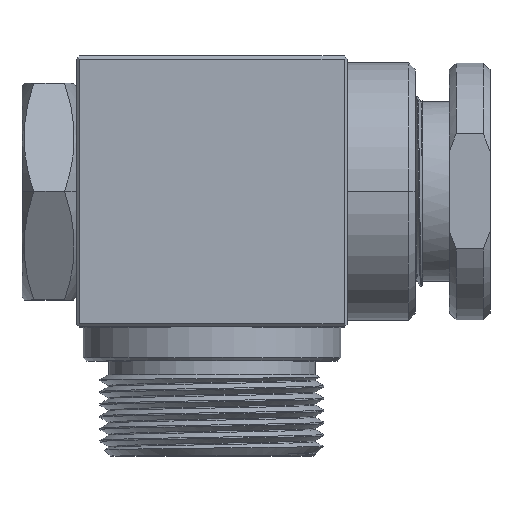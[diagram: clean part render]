
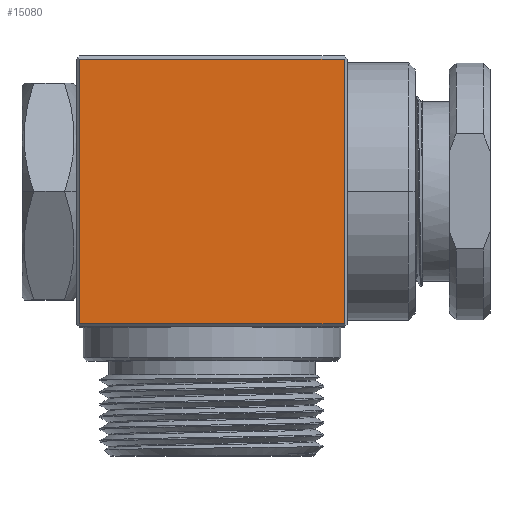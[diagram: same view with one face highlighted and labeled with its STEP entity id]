
A CAD part, top view. The second image highlights one B-rep face of the part: STEP entity #15080.
In plain terms, the highlighted planar face has unit normal (0, 0, 1).
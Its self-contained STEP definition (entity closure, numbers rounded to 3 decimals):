
#967=DIRECTION('',(0.,1.,0.));
#968=VECTOR('',#967,39.);
#969=CARTESIAN_POINT('',(19.5,-19.5,20.));
#970=LINE('',#969,#968);
#995=DIRECTION('',(1.,0.,0.));
#996=VECTOR('',#995,39.);
#997=CARTESIAN_POINT('',(-19.5,-19.5,20.));
#998=LINE('',#997,#996);
#1160=DIRECTION('',(-1.,0.,0.));
#1161=VECTOR('',#1160,39.);
#1162=CARTESIAN_POINT('',(19.5,19.5,20.));
#1163=LINE('',#1162,#1161);
#1188=DIRECTION('',(0.,-1.,0.));
#1189=VECTOR('',#1188,39.);
#1190=CARTESIAN_POINT('',(-19.5,19.5,20.));
#1191=LINE('',#1190,#1189);
#13782=CARTESIAN_POINT('',(-19.5,19.5,20.));
#13784=VERTEX_POINT('',#13782);
#13792=CARTESIAN_POINT('',(19.5,-19.5,20.));
#13793=CARTESIAN_POINT('',(19.5,19.5,20.));
#13794=VERTEX_POINT('',#13792);
#13795=VERTEX_POINT('',#13793);
#13800=CARTESIAN_POINT('',(-19.5,-19.5,20.));
#13801=VERTEX_POINT('',#13800);
#15066=CARTESIAN_POINT('',(0.,0.,20.));
#15067=DIRECTION('',(0.,0.,1.));
#15068=DIRECTION('',(1.,0.,0.));
#15069=AXIS2_PLACEMENT_3D('',#15066,#15067,#15068);
#15070=PLANE('',#15069);
#15072=ORIENTED_EDGE('',*,*,#15071,.F.);
#15074=ORIENTED_EDGE('',*,*,#15073,.F.);
#15076=ORIENTED_EDGE('',*,*,#15075,.F.);
#15077=ORIENTED_EDGE('',*,*,#15046,.F.);
#15078=EDGE_LOOP('',(#15072,#15074,#15076,#15077));
#15079=FACE_OUTER_BOUND('',#15078,.F.);
#15080=ADVANCED_FACE('',(#15079),#15070,.T.);
#15046=EDGE_CURVE('',#13794,#13795,#970,.T.);
#15071=EDGE_CURVE('',#13801,#13794,#998,.T.);
#15073=EDGE_CURVE('',#13784,#13801,#1191,.T.);
#15075=EDGE_CURVE('',#13795,#13784,#1163,.T.);
